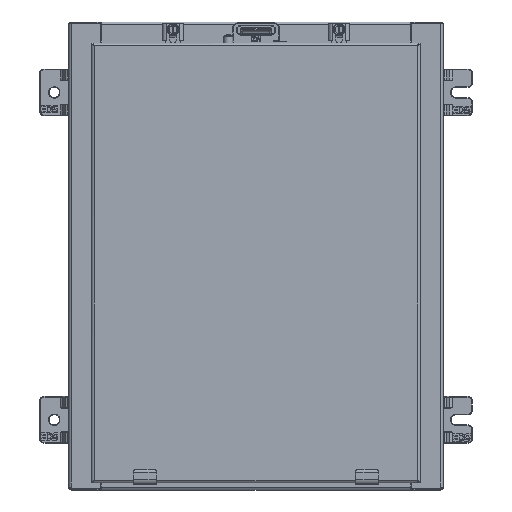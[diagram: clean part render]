
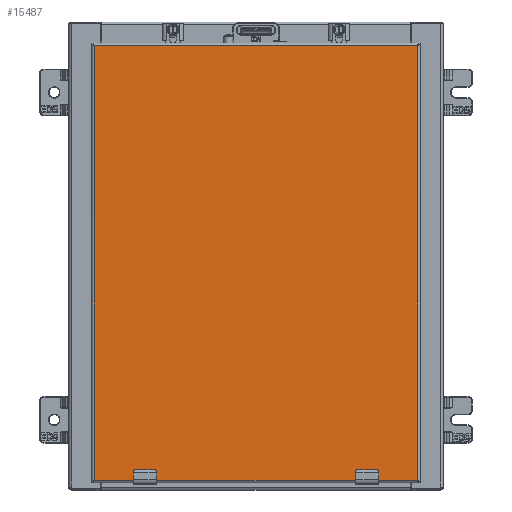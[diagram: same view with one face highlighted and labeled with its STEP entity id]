
A CAD part, top view. The second image highlights one B-rep face of the part: STEP entity #15487.
In plain terms, the highlighted planar face has unit normal (0, 0, 1) as drawn and (0, 1, 0) by its records, which use the part's own axes.
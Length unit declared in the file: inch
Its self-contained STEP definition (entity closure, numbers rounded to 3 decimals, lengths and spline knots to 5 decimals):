
#11876=DIRECTION('',(0.,0.,1.));
#11877=VECTOR('',#11876,18.566);
#11878=CARTESIAN_POINT('',(-6.91438,0.,0.117));
#11879=LINE('',#11878,#11877);
#11970=DIRECTION('',(0.,0.,-1.));
#11971=VECTOR('',#11970,0.3629);
#11972=CARTESIAN_POINT('',(5.09513,0.,18.683));
#11973=LINE('',#11972,#11971);
#11977=DIRECTION('',(-1.,0.,0.));
#11978=VECTOR('',#11977,0.63);
#11979=CARTESIAN_POINT('',(5.06513,0.,18.2901));
#11980=LINE('',#11979,#11978);
#11984=DIRECTION('',(0.,0.,-1.));
#11985=VECTOR('',#11984,0.3629);
#11986=CARTESIAN_POINT('',(4.40513,0.,18.683));
#11987=LINE('',#11986,#11985);
#11991=DIRECTION('',(0.,0.,-1.));
#11992=VECTOR('',#11991,0.3629);
#11993=CARTESIAN_POINT('',(-4.40513,0.,18.683));
#11994=LINE('',#11993,#11992);
#11998=DIRECTION('',(-1.,0.,0.));
#11999=VECTOR('',#11998,0.63);
#12000=CARTESIAN_POINT('',(-4.43513,0.,18.2901));
#12001=LINE('',#12000,#11999);
#12005=DIRECTION('',(0.,0.,-1.));
#12006=VECTOR('',#12005,0.3629);
#12007=CARTESIAN_POINT('',(-5.09513,0.,18.683));
#12008=LINE('',#12007,#12006);
#12012=DIRECTION('',(0.,0.,1.));
#12013=VECTOR('',#12012,18.566);
#12014=CARTESIAN_POINT('',(6.91438,0.,0.117));
#12015=LINE('',#12014,#12013);
#12211=DIRECTION('',(-1.,0.,0.));
#12212=VECTOR('',#12211,13.82875);
#12213=CARTESIAN_POINT('',(6.91438,0.,0.117));
#12214=LINE('',#12213,#12212);
#13078=CARTESIAN_POINT('',(4.43513,0.,18.3201));
#13079=DIRECTION('',(0.,-1.,0.));
#13080=DIRECTION('',(-1.,0.,0.));
#13081=AXIS2_PLACEMENT_3D('',#13078,#13079,#13080);
#13108=CARTESIAN_POINT('',(5.06513,0.,18.3201));
#13109=DIRECTION('',(0.,-1.,0.));
#13110=DIRECTION('',(0.,0.,-1.));
#13111=AXIS2_PLACEMENT_3D('',#13108,#13109,#13110);
#13517=DIRECTION('',(-1.,0.,0.));
#13518=VECTOR('',#13517,8.81025);
#13519=CARTESIAN_POINT('',(4.40513,0.,18.683));
#13520=LINE('',#13519,#13518);
#13566=DIRECTION('',(-1.,0.,0.));
#13567=VECTOR('',#13566,1.81925);
#13568=CARTESIAN_POINT('',(-5.09513,0.,18.683));
#13569=LINE('',#13568,#13567);
#13603=DIRECTION('',(-1.,0.,0.));
#13604=VECTOR('',#13603,1.81925);
#13605=CARTESIAN_POINT('',(6.91438,0.,18.683));
#13606=LINE('',#13605,#13604);
#13684=CARTESIAN_POINT('',(-5.06513,0.,18.3201));
#13685=DIRECTION('',(0.,-1.,0.));
#13686=DIRECTION('',(-1.,0.,0.));
#13687=AXIS2_PLACEMENT_3D('',#13684,#13685,#13686);
#13714=CARTESIAN_POINT('',(-4.43513,0.,18.3201));
#13715=DIRECTION('',(0.,-1.,0.));
#13716=DIRECTION('',(0.,0.,-1.));
#13717=AXIS2_PLACEMENT_3D('',#13714,#13715,#13716);
#14562=CARTESIAN_POINT('',(6.91438,0.,0.117));
#14563=CARTESIAN_POINT('',(-6.91438,0.,0.117));
#14564=VERTEX_POINT('',#14562);
#14565=VERTEX_POINT('',#14563);
#14772=CARTESIAN_POINT('',(-6.91438,0.,18.683));
#14773=VERTEX_POINT('',#14772);
#14782=CARTESIAN_POINT('',(6.91438,0.,18.683));
#14784=VERTEX_POINT('',#14782);
#14879=CARTESIAN_POINT('',(-4.40513,0.,18.683));
#14881=VERTEX_POINT('',#14879);
#14883=CARTESIAN_POINT('',(-5.09513,0.,18.683));
#14885=VERTEX_POINT('',#14883);
#14895=CARTESIAN_POINT('',(5.09513,0.,18.683));
#14897=VERTEX_POINT('',#14895);
#14899=CARTESIAN_POINT('',(4.40513,0.,18.683));
#14901=VERTEX_POINT('',#14899);
#14910=CARTESIAN_POINT('',(-5.09513,0.,18.3201));
#14912=VERTEX_POINT('',#14910);
#14914=CARTESIAN_POINT('',(-5.06513,0.,18.2901));
#14916=VERTEX_POINT('',#14914);
#14934=CARTESIAN_POINT('',(-4.43513,0.,18.2901));
#14936=VERTEX_POINT('',#14934);
#14938=CARTESIAN_POINT('',(-4.40513,0.,18.3201));
#14940=VERTEX_POINT('',#14938);
#14942=CARTESIAN_POINT('',(4.40513,0.,18.3201));
#14944=VERTEX_POINT('',#14942);
#14946=CARTESIAN_POINT('',(4.43513,0.,18.2901));
#14948=VERTEX_POINT('',#14946);
#14966=CARTESIAN_POINT('',(5.06513,0.,18.2901));
#14968=VERTEX_POINT('',#14966);
#14970=CARTESIAN_POINT('',(5.09513,0.,18.3201));
#14972=VERTEX_POINT('',#14970);
#15449=CARTESIAN_POINT('',(7.03138,0.,0.));
#15450=DIRECTION('',(0.,1.,0.));
#15451=DIRECTION('',(-1.,0.,0.));
#15452=AXIS2_PLACEMENT_3D('',#15449,#15450,#15451);
#15453=PLANE('',#15452);
#15455=ORIENTED_EDGE('',*,*,#15454,.T.);
#15457=ORIENTED_EDGE('',*,*,#15456,.T.);
#15459=ORIENTED_EDGE('',*,*,#15458,.T.);
#15461=ORIENTED_EDGE('',*,*,#15460,.F.);
#15463=ORIENTED_EDGE('',*,*,#15462,.T.);
#15465=ORIENTED_EDGE('',*,*,#15464,.F.);
#15467=ORIENTED_EDGE('',*,*,#15466,.F.);
#15469=ORIENTED_EDGE('',*,*,#15468,.T.);
#15471=ORIENTED_EDGE('',*,*,#15470,.T.);
#15473=ORIENTED_EDGE('',*,*,#15472,.F.);
#15475=ORIENTED_EDGE('',*,*,#15474,.T.);
#15477=ORIENTED_EDGE('',*,*,#15476,.F.);
#15479=ORIENTED_EDGE('',*,*,#15478,.F.);
#15481=ORIENTED_EDGE('',*,*,#15480,.T.);
#15482=ORIENTED_EDGE('',*,*,#15439,.F.);
#15484=ORIENTED_EDGE('',*,*,#15483,.F.);
#15485=EDGE_LOOP('',(#15455,#15457,#15459,#15461,#15463,#15465,#15467,#15469,
#15471,#15473,#15475,#15477,#15479,#15481,#15482,#15484));
#15486=FACE_OUTER_BOUND('',#15485,.F.);
#13082=CIRCLE('',#13081,0.03);
#13112=CIRCLE('',#13111,0.03);
#13688=CIRCLE('',#13687,0.03);
#13718=CIRCLE('',#13717,0.03);
#15439=EDGE_CURVE('',#14565,#14773,#11879,.T.);
#15454=EDGE_CURVE('',#14564,#14784,#12015,.T.);
#15456=EDGE_CURVE('',#14784,#14897,#13606,.T.);
#15458=EDGE_CURVE('',#14897,#14972,#11973,.T.);
#15460=EDGE_CURVE('',#14968,#14972,#13112,.T.);
#15462=EDGE_CURVE('',#14968,#14948,#11980,.T.);
#15464=EDGE_CURVE('',#14944,#14948,#13082,.T.);
#15466=EDGE_CURVE('',#14901,#14944,#11987,.T.);
#15468=EDGE_CURVE('',#14901,#14881,#13520,.T.);
#15470=EDGE_CURVE('',#14881,#14940,#11994,.T.);
#15472=EDGE_CURVE('',#14936,#14940,#13718,.T.);
#15474=EDGE_CURVE('',#14936,#14916,#12001,.T.);
#15476=EDGE_CURVE('',#14912,#14916,#13688,.T.);
#15478=EDGE_CURVE('',#14885,#14912,#12008,.T.);
#15480=EDGE_CURVE('',#14885,#14773,#13569,.T.);
#15483=EDGE_CURVE('',#14564,#14565,#12214,.T.);
#15487=ADVANCED_FACE('',(#15486),#15453,.T.);
